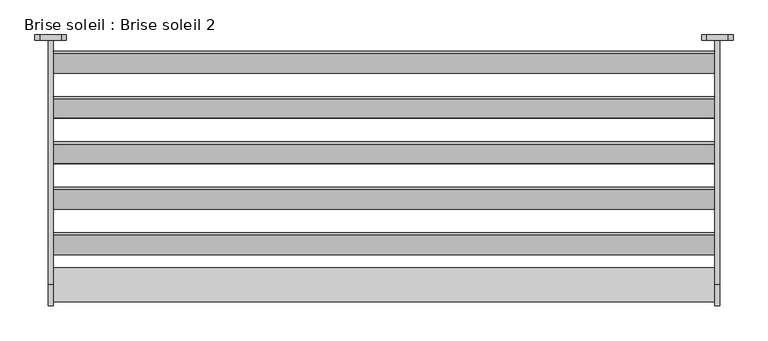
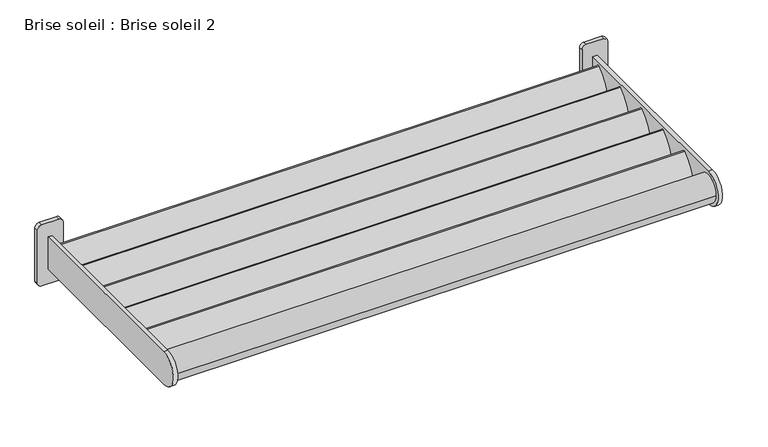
"""IFC4 building model written with IfcOpenShell, lengths in millimetres: proxy geometry, Brise soleil : Brise soleil 2."""

from ifc_helpers import new_model, si_unit, point, frame, frame_2d, origin, place, context, project, spatial, circle_curve, trimmed, segment, composite_curve, outline, extrude, source, transform, mapped, element, save
from ifc_brep_helpers import plane_surface, cylinder_surface, advanced_brep


def brise_soleil_brise_soleil_2_45c54e24(model_context):
    return source(origin(), model_context, "Body", "SolidModel", [
        extrude(outline(composite_curve([segment(trimmed(circle_curve(frame_2d((-131.1196352, 870.0937882)), 187.4135018), [point((-317.3614097, 891.0179864))], [point((-242.3614097, 1020.921797))], False, "CARTESIAN"), True, "CONTINUOUS"), segment(trimmed(circle_curve(frame_2d((-239.3935933, 1016.8978604)), 5.0), [point((-242.3614097, 1020.921797))], [point((-236.4257768, 1012.8739239))], False, "CARTESIAN"), True, "CONTINUOUS"), segment(trimmed(circle_curve(frame_2d((-131.1196352, 870.0937882)), 177.4135018), [point((-236.4257768, 1012.8739239))], [point((-307.4239307, 889.9015141))], True, "CARTESIAN"), True, "CONTINUOUS"), segment(trimmed(circle_curve(frame_2d((-312.3926702, 890.4597503)), 5.0), [point((-307.4239307, 889.9015141))], [point((-317.3614097, 891.0179864))], False, "CARTESIAN"), True, "CONTINUOUS")], self_intersect=False)), frame((20.0, 0.0, 0.0), z_axis=(1.0, 0.0, 0.0), x_axis=(0.0, 1.0, 0.0)), (0.0, 0.0, 1.0), 2514.0517824),
        extrude(outline(composite_curve([segment(trimmed(circle_curve(frame_2d((-303.6196352, 870.0937882)), 187.4135018), [point((-489.8614097, 891.0179864))], [point((-414.8614097, 1020.921797))], False, "CARTESIAN"), True, "CONTINUOUS"), segment(trimmed(circle_curve(frame_2d((-411.8935933, 1016.8978604)), 5.0), [point((-414.8614097, 1020.921797))], [point((-408.9257768, 1012.8739239))], False, "CARTESIAN"), True, "CONTINUOUS"), segment(trimmed(circle_curve(frame_2d((-303.6196352, 870.0937882)), 177.4135018), [point((-408.9257768, 1012.8739239))], [point((-479.9239307, 889.9015141))], True, "CARTESIAN"), True, "CONTINUOUS"), segment(trimmed(circle_curve(frame_2d((-484.8926702, 890.4597503)), 5.0), [point((-479.9239307, 889.9015141))], [point((-489.8614097, 891.0179864))], False, "CARTESIAN"), True, "CONTINUOUS")], self_intersect=False)), frame((20.0, 0.0, 0.0), z_axis=(1.0, 0.0, 0.0), x_axis=(0.0, 1.0, 0.0)), (0.0, 0.0, 1.0), 2514.0517824),
        extrude(outline(composite_curve([segment(trimmed(circle_curve(frame_2d((-476.1196352, 870.0937882)), 187.4135018), [point((-662.3614097, 891.0179864))], [point((-587.3614097, 1020.921797))], False, "CARTESIAN"), True, "CONTINUOUS"), segment(trimmed(circle_curve(frame_2d((-584.3935933, 1016.8978604)), 5.0), [point((-587.3614097, 1020.921797))], [point((-581.4257768, 1012.8739239))], False, "CARTESIAN"), True, "CONTINUOUS"), segment(trimmed(circle_curve(frame_2d((-476.1196352, 870.0937882)), 177.4135018), [point((-581.4257768, 1012.8739239))], [point((-652.4239307, 889.9015141))], True, "CARTESIAN"), True, "CONTINUOUS"), segment(trimmed(circle_curve(frame_2d((-657.3926702, 890.4597503)), 5.0), [point((-652.4239307, 889.9015141))], [point((-662.3614097, 891.0179864))], False, "CARTESIAN"), True, "CONTINUOUS")], self_intersect=False)), frame((20.0, 0.0, 0.0), z_axis=(1.0, 0.0, 0.0), x_axis=(0.0, 1.0, 0.0)), (0.0, 0.0, 1.0), 2514.0517824),
        extrude(outline(composite_curve([segment(trimmed(circle_curve(frame_2d((41.3803648, 870.0937882)), 187.4135018), [point((-144.8614097, 891.0179864))], [point((-69.8614097, 1020.921797))], False, "CARTESIAN"), True, "CONTINUOUS"), segment(trimmed(circle_curve(frame_2d((-66.8935933, 1016.8978604)), 5.0), [point((-69.8614097, 1020.921797))], [point((-63.9257768, 1012.8739239))], False, "CARTESIAN"), True, "CONTINUOUS"), segment(trimmed(circle_curve(frame_2d((41.3803648, 870.0937882)), 177.4135018), [point((-63.9257768, 1012.8739239))], [point((-134.9239307, 889.9015141))], True, "CARTESIAN"), True, "CONTINUOUS"), segment(trimmed(circle_curve(frame_2d((-139.8926702, 890.4597503)), 5.0), [point((-134.9239307, 889.9015141))], [point((-144.8614097, 891.0179864))], False, "CARTESIAN"), True, "CONTINUOUS")], self_intersect=False)), frame((20.0, 0.0, 0.0), z_axis=(1.0, 0.0, 0.0), x_axis=(0.0, 1.0, 0.0)), (0.0, 0.0, 1.0), 2514.0517824),
        extrude(outline(composite_curve([segment(trimmed(circle_curve(frame_2d((-648.6196352, 870.0937882)), 187.4135018), [point((-834.8614097, 891.0179864))], [point((-759.8614097, 1020.921797))], False, "CARTESIAN"), True, "CONTINUOUS"), segment(trimmed(circle_curve(frame_2d((-756.8935933, 1016.8978604)), 5.0), [point((-759.8614097, 1020.921797))], [point((-753.9257768, 1012.8739239))], False, "CARTESIAN"), True, "CONTINUOUS"), segment(trimmed(circle_curve(frame_2d((-648.6196352, 870.0937882)), 177.4135018), [point((-753.9257768, 1012.8739239))], [point((-824.9239307, 889.9015141))], True, "CARTESIAN"), True, "CONTINUOUS"), segment(trimmed(circle_curve(frame_2d((-829.8926702, 890.4597503)), 5.0), [point((-824.9239307, 889.9015141))], [point((-834.8614097, 891.0179864))], False, "CARTESIAN"), True, "CONTINUOUS")], self_intersect=False)), frame((20.0, 0.0, 0.0), z_axis=(1.0, 0.0, 0.0), x_axis=(0.0, 1.0, 0.0)), (0.0, 0.0, 1.0), 2514.0517824),
        advanced_brep(
        [(2584.0517824, -20.0, 1107.5), (2504.0517824, -20.0, 1107.5), (2484.0517824, -20.0, 1087.5), (2484.0517824, -20.0, 827.5), (2504.0517824, -20.0, 807.5), (2584.0517824, -20.0, 807.5), (2604.0517824, -20.0, 827.5), (2604.0517824, -20.0, 1087.5), (2554.0517824, -20.0, 1037.5), (2554.0517824, -20.0, 877.5), (2534.0517824, -20.0, 877.5), (2534.0517824, -20.0, 1037.5), (2584.0517824, 0.0, 1107.5), (2604.0517824, 0.0, 1087.5), (2604.0517824, 0.0, 827.5), (2584.0517824, 0.0, 807.5), (2504.0517824, 0.0, 807.5), (2484.0517824, 0.0, 827.5), (2484.0517824, 0.0, 1087.5), (2504.0517824, 0.0, 1107.5), (2554.0517824, -950.0, 1037.5), (2554.0517824, -950.0, 877.5), (2534.0517824, -950.0, 877.5), (2534.0517824, -950.0, 1037.5)],
        [
            (0, 1),
            (1, 2, circle_curve(frame((2504.0517824, -20.0, 1087.5), z_axis=(0.0, -1.0, 0.0), x_axis=(1.0, 0.0, 0.0)), 20.0)),
            (2, 3),
            (3, 4, circle_curve(frame((2504.0517824, -20.0, 827.5), z_axis=(0.0, -1.0, 0.0), x_axis=(1.0, 0.0, 0.0)), 20.0)),
            (4, 5),
            (5, 6, circle_curve(frame((2584.0517824, -20.0, 827.5), z_axis=(0.0, -1.0, 0.0), x_axis=(1.0, 0.0, 0.0)), 20.0)),
            (6, 7),
            (7, 0, circle_curve(frame((2584.0517824, -20.0, 1087.5), z_axis=(0.0, -1.0, 0.0), x_axis=(1.0, 0.0, 0.0)), 20.0)),
            (8, 9),
            (9, 10),
            (10, 11),
            (11, 8),
            (12, 13, circle_curve(frame((2584.0517824, 0.0, 1087.5), z_axis=(0.0, 1.0, 0.0), x_axis=(1.0, 0.0, 0.0)), 20.0)),
            (13, 14),
            (14, 15, circle_curve(frame((2584.0517824, 0.0, 827.5), z_axis=(0.0, 1.0, 0.0), x_axis=(1.0, 0.0, 0.0)), 20.0)),
            (15, 16),
            (16, 17, circle_curve(frame((2504.0517824, 0.0, 827.5), z_axis=(0.0, 1.0, 0.0), x_axis=(1.0, 0.0, 0.0)), 20.0)),
            (17, 18),
            (18, 19, circle_curve(frame((2504.0517824, 0.0, 1087.5), z_axis=(0.0, 1.0, 0.0), x_axis=(1.0, 0.0, 0.0)), 20.0)),
            (19, 12),
            (0, 12),
            (19, 1),
            (18, 2),
            (17, 3),
            (16, 4),
            (15, 5),
            (14, 6),
            (13, 7),
            (20, 21, circle_curve(frame((2554.0517824, -950.0, 957.5), z_axis=(1.0, 0.0, 0.0), x_axis=(0.0, 1.0, 0.0)), 80.0)),
            (21, 9),
            (8, 20),
            (22, 23, circle_curve(frame((2534.0517824, -950.0, 957.5), z_axis=(-1.0, 0.0, 0.0), x_axis=(0.0, 1.0, 0.0)), 80.0)),
            (23, 11),
            (10, 22),
            (20, 23),
            (22, 21),
        ],
        [
            plane_surface(frame((2423.4304763, -20.0, 1107.5), z_axis=(0.0, -1.0, 0.0), x_axis=(-1.0, 0.0, 0.0))),
            plane_surface(frame((2423.4304763, 0.0, 1107.5), z_axis=(0.0, 1.0, 0.0), x_axis=(1.0, 0.0, 0.0))),
            plane_surface(frame((2584.0517824, -20.0, 1107.5), z_axis=(0.0, 0.0, 1.0), x_axis=(0.0, 1.0, 0.0))),
            cylinder_surface(frame((2504.0517824, 0.0, 1087.5), z_axis=(0.0, -1.0, 0.0), x_axis=(1.0, 0.0, 0.0)), 20.0),
            plane_surface(frame((2484.0517824, -20.0, 1087.5), z_axis=(-1.0, 0.0, 0.0), x_axis=(0.0, 1.0, 0.0))),
            cylinder_surface(frame((2504.0517824, 0.0, 827.5), z_axis=(0.0, -1.0, 0.0), x_axis=(1.0, 0.0, 0.0)), 20.0),
            plane_surface(frame((2504.0517824, -20.0, 807.5), z_axis=(0.0, 0.0, -1.0), x_axis=(0.0, 1.0, 0.0))),
            cylinder_surface(frame((2584.0517824, 0.0, 827.5), z_axis=(0.0, -1.0, 0.0), x_axis=(1.0, 0.0, 0.0)), 20.0),
            plane_surface(frame((2604.0517824, -20.0, 827.5), z_axis=(1.0, 0.0, 0.0), x_axis=(0.0, 1.0, 0.0))),
            cylinder_surface(frame((2584.0517824, 0.0, 1087.5), z_axis=(0.0, -1.0, 0.0), x_axis=(1.0, 0.0, 0.0)), 20.0),
            plane_surface(frame((2554.0517824, -870.0, 957.5), z_axis=(1.0, 0.0, 0.0), x_axis=(0.0, 0.0, 1.0))),
            plane_surface(frame((2534.0517824, -870.0, 957.5), z_axis=(-1.0, 0.0, 0.0), x_axis=(0.0, 0.0, -1.0))),
            cylinder_surface(frame((2534.0517824, -950.0, 957.5), z_axis=(1.0, 0.0, 0.0), x_axis=(0.0, 1.0, 0.0)), 80.0),
            plane_surface(frame((2554.0517824, -950.0, 877.5), z_axis=(0.0, 0.0, -1.0), x_axis=(-1.0, 0.0, 0.0))),
            plane_surface(frame((2554.0517824, 0.0, 1037.5), z_axis=(0.0, 0.0, 1.0), x_axis=(-1.0, 0.0, 0.0))),
        ],
        [
            (0, [[1, 2, 3, 4, 5, 6, 7, 8], [9, 10, 11, 12]]),
            (1, [[13, 14, 15, 16, 17, 18, 19, 20]]),
            (2, [[-1, 21, -20, 22]]),
            (3, [[-2, -22, -19, 23]]),
            (4, [[-3, -23, -18, 24]]),
            (5, [[-4, -24, -17, 25]]),
            (6, [[-5, -25, -16, 26]]),
            (7, [[-6, -26, -15, 27]]),
            (8, [[-7, -27, -14, 28]]),
            (9, [[-8, -28, -13, -21]]),
            (10, [[29, 30, -9, 31]]),
            (11, [[32, 33, -11, 34]]),
            (12, [[-29, 35, -32, 36]]),
            (13, [[-36, -34, -10, -30]]),
            (14, [[-35, -31, -12, -33]]),
        ],
    ),
        advanced_brep(
        [(50.0, -20.0, 1107.5), (-30.0, -20.0, 1107.5), (-50.0, -20.0, 1087.5), (-50.0, -20.0, 827.5), (-30.0, -20.0, 807.5), (50.0, -20.0, 807.5), (70.0, -20.0, 827.5), (70.0, -20.0, 1087.5), (20.0, -20.0, 1037.5), (20.0, -20.0, 877.5), (0.0, -20.0, 877.5), (0.0, -20.0, 1037.5), (50.0, 0.0, 1107.5), (70.0, 0.0, 1087.5), (70.0, 0.0, 827.5), (50.0, 0.0, 807.5), (-30.0, 0.0, 807.5), (-50.0, 0.0, 827.5), (-50.0, 0.0, 1087.5), (-30.0, 0.0, 1107.5), (20.0, -950.0, 1037.5), (20.0, -950.0, 877.5), (0.0, -950.0, 877.5), (0.0, -950.0, 1037.5)],
        [
            (0, 1),
            (1, 2, circle_curve(frame((-30.0, -20.0, 1087.5), z_axis=(0.0, -1.0, 0.0), x_axis=(1.0, 0.0, 0.0)), 20.0)),
            (2, 3),
            (3, 4, circle_curve(frame((-30.0, -20.0, 827.5), z_axis=(0.0, -1.0, 0.0), x_axis=(1.0, 0.0, 0.0)), 20.0)),
            (4, 5),
            (5, 6, circle_curve(frame((50.0, -20.0, 827.5), z_axis=(0.0, -1.0, 0.0), x_axis=(1.0, 0.0, 0.0)), 20.0)),
            (6, 7),
            (7, 0, circle_curve(frame((50.0, -20.0, 1087.5), z_axis=(0.0, -1.0, 0.0), x_axis=(1.0, 0.0, 0.0)), 20.0)),
            (8, 9),
            (9, 10),
            (10, 11),
            (11, 8),
            (12, 13, circle_curve(frame((50.0, 0.0, 1087.5), z_axis=(0.0, 1.0, 0.0), x_axis=(1.0, 0.0, 0.0)), 20.0)),
            (13, 14),
            (14, 15, circle_curve(frame((50.0, 0.0, 827.5), z_axis=(0.0, 1.0, 0.0), x_axis=(1.0, 0.0, 0.0)), 20.0)),
            (15, 16),
            (16, 17, circle_curve(frame((-30.0, 0.0, 827.5), z_axis=(0.0, 1.0, 0.0), x_axis=(1.0, 0.0, 0.0)), 20.0)),
            (17, 18),
            (18, 19, circle_curve(frame((-30.0, 0.0, 1087.5), z_axis=(0.0, 1.0, 0.0), x_axis=(1.0, 0.0, 0.0)), 20.0)),
            (19, 12),
            (0, 12),
            (19, 1),
            (18, 2),
            (17, 3),
            (16, 4),
            (15, 5),
            (14, 6),
            (13, 7),
            (20, 21, circle_curve(frame((20.0, -950.0, 957.5), z_axis=(1.0, 0.0, 0.0), x_axis=(0.0, 1.0, 0.0)), 80.0)),
            (21, 9),
            (8, 20),
            (22, 23, circle_curve(frame((0.0, -950.0, 957.5), z_axis=(-1.0, 0.0, 0.0), x_axis=(0.0, 1.0, 0.0)), 80.0)),
            (23, 11),
            (10, 22),
            (20, 23),
            (22, 21),
        ],
        [
            plane_surface(frame((-110.6213062, -20.0, 1107.5), z_axis=(0.0, -1.0, 0.0), x_axis=(-1.0, 0.0, 0.0))),
            plane_surface(frame((-110.6213062, 0.0, 1107.5), z_axis=(0.0, 1.0, 0.0), x_axis=(1.0, 0.0, 0.0))),
            plane_surface(frame((50.0, -20.0, 1107.5), z_axis=(0.0, 0.0, 1.0), x_axis=(0.0, 1.0, 0.0))),
            cylinder_surface(frame((-30.0, 0.0, 1087.5), z_axis=(0.0, -1.0, 0.0), x_axis=(1.0, 0.0, 0.0)), 20.0),
            plane_surface(frame((-50.0, -20.0, 1087.5), z_axis=(-1.0, 0.0, 0.0), x_axis=(0.0, 1.0, 0.0))),
            cylinder_surface(frame((-30.0, 0.0, 827.5), z_axis=(0.0, -1.0, 0.0), x_axis=(1.0, 0.0, 0.0)), 20.0),
            plane_surface(frame((-30.0, -20.0, 807.5), z_axis=(0.0, 0.0, -1.0), x_axis=(0.0, 1.0, 0.0))),
            cylinder_surface(frame((50.0, 0.0, 827.5), z_axis=(0.0, -1.0, 0.0), x_axis=(1.0, 0.0, 0.0)), 20.0),
            plane_surface(frame((70.0, -20.0, 827.5), z_axis=(1.0, 0.0, 0.0), x_axis=(0.0, 1.0, 0.0))),
            cylinder_surface(frame((50.0, 0.0, 1087.5), z_axis=(0.0, -1.0, 0.0), x_axis=(1.0, 0.0, 0.0)), 20.0),
            plane_surface(frame((20.0, -870.0, 957.5), z_axis=(1.0, 0.0, 0.0), x_axis=(0.0, 0.0, 1.0))),
            plane_surface(frame((0.0, -870.0, 957.5), z_axis=(-1.0, 0.0, 0.0), x_axis=(0.0, 0.0, -1.0))),
            cylinder_surface(frame((0.0, -950.0, 957.5), z_axis=(1.0, 0.0, 0.0), x_axis=(0.0, 1.0, 0.0)), 80.0),
            plane_surface(frame((20.0, -950.0, 877.5), z_axis=(0.0, 0.0, -1.0), x_axis=(-1.0, 0.0, 0.0))),
            plane_surface(frame((20.0, 0.0, 1037.5), z_axis=(0.0, 0.0, 1.0), x_axis=(-1.0, 0.0, 0.0))),
        ],
        [
            (0, [[1, 2, 3, 4, 5, 6, 7, 8], [9, 10, 11, 12]]),
            (1, [[13, 14, 15, 16, 17, 18, 19, 20]]),
            (2, [[-1, 21, -20, 22]]),
            (3, [[-2, -22, -19, 23]]),
            (4, [[-3, -23, -18, 24]]),
            (5, [[-4, -24, -17, 25]]),
            (6, [[-5, -25, -16, 26]]),
            (7, [[-6, -26, -15, 27]]),
            (8, [[-7, -27, -14, 28]]),
            (9, [[-8, -28, -13, -21]]),
            (10, [[29, 30, -9, 31]]),
            (11, [[32, 33, -11, 34]]),
            (12, [[-29, 35, -32, 36]]),
            (13, [[-36, -34, -10, -30]]),
            (14, [[-35, -31, -12, -33]]),
        ],
    ),
        extrude(outline(composite_curve([segment(trimmed(circle_curve(frame_2d((-950.0, 957.5)), 65.0), [point((-1015.0, 957.5))], [point((-885.0, 957.5))], False, "CARTESIAN"), True, "CONTINUOUS"), segment(trimmed(circle_curve(frame_2d((-950.0, 957.5)), 65.0), [point((-885.0, 957.5))], [point((-1015.0, 957.5))], False, "CARTESIAN"), True, "CONTINUOUS")], self_intersect=False)), frame((20.0, 0.0, 0.0), z_axis=(1.0, 0.0, 0.0), x_axis=(0.0, 1.0, 0.0)), (0.0, 0.0, 1.0), 2514.0517824),
    ])


if __name__ == "__main__":
    model = new_model("IFC4")
    model_context = context("Model", 3, world=origin())
    ifc_project = project(units=[si_unit("LENGTHUNIT", "METRE", prefix="MILLI")], contexts=[model_context])
    site = spatial("IfcSite", under=ifc_project)
    building = spatial("IfcBuilding", under=site)
    placement = place(None, origin())
    brise_soleil_brise_soleil_2_shape = brise_soleil_brise_soleil_2_45c54e24(model_context)
    element("IfcBuildingElementProxy", 1, Name="Brise soleil : Brise soleil 2", ObjectType="Brise soleil : Brise soleil 2", at=placement, inside=building, context=model_context, shape_type="MappedRepresentation", body=[
        mapped(brise_soleil_brise_soleil_2_shape, transform((0.0, 0.0, 0.0), x_axis=(1.0, 0.0, 0.0), y_axis=(0.0, 1.0, 0.0), z_axis=(0.0, 0.0, 1.0))),
    ])
    save(model, "model.ifc")
